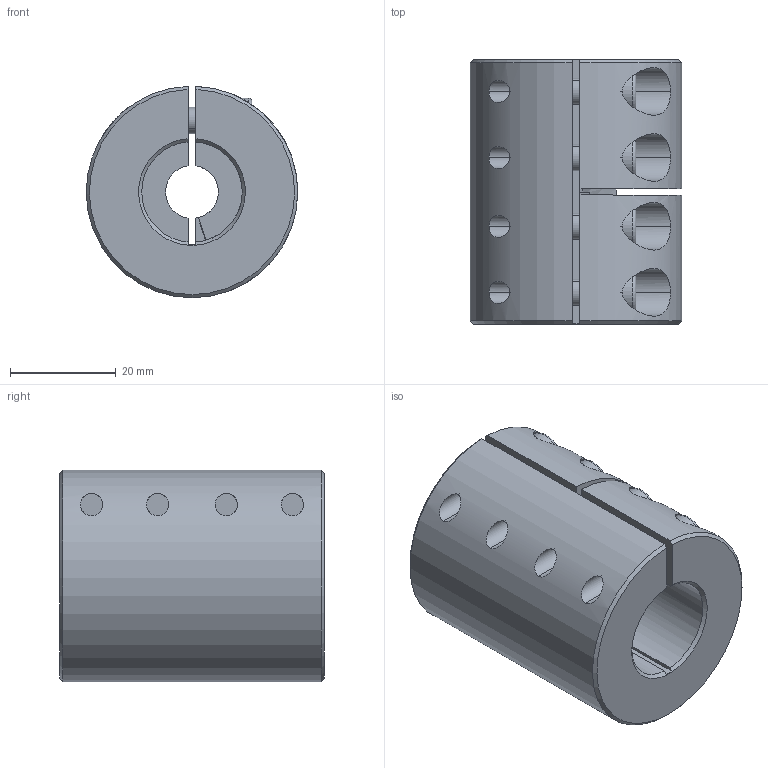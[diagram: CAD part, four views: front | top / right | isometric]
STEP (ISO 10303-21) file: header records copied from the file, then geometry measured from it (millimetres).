
FILE_DESCRIPTION (( 'STEP AP214' ), '1' );
FILE_NAME ('LL-B-D40L50-10-19½¨Ä£.STEP', '2022-07-22T00:17:59', ( '' ), ( '' ), 'SwSTEP 2.0', 'SolidWorks 2022', '' );
FILE_SCHEMA (( 'AUTOMOTIVE_DESIGN' ));
Length unit declared in the file: millimetre
Products named in the file (1): LL-B-D40L50-10-19膘耀
Bounding box: 40 x 50 x 39.99 mm (x, y, z)
Volume: 50572.2 mm3; surface area: 15580 mm2
Topology: 1 solids, 1 shells, 182 faces, 463 edges, 291 vertices
Faces by surface type: plane 88, cylinder 71, cone 15, torus 8
Entity records: 6017 total; most frequent: CARTESIAN_POINT 1531, DIRECTION 969, ORIENTED_EDGE 910, EDGE_CURVE 455, AXIS2_PLACEMENT_3D 377, VERTEX_POINT 291, LINE 215, VECTOR 215
